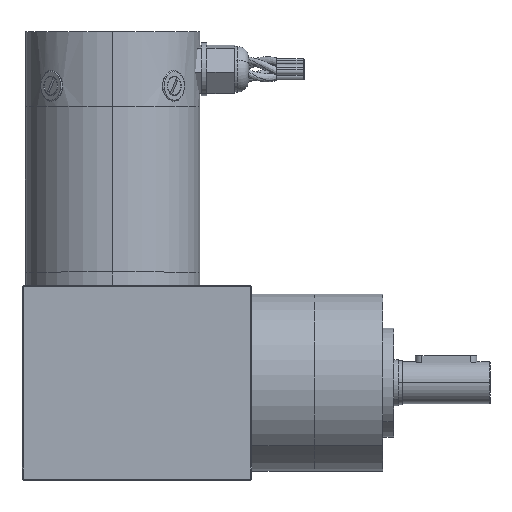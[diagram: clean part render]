
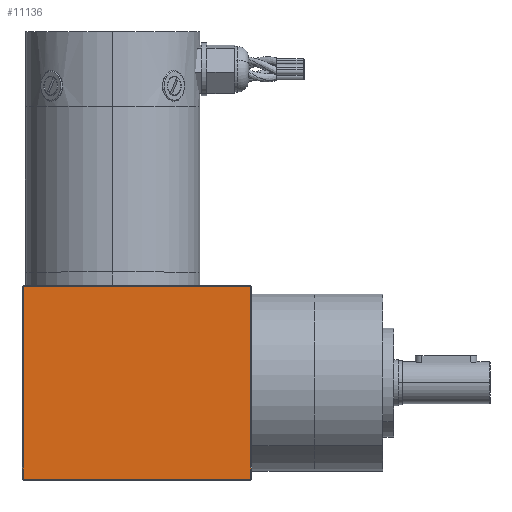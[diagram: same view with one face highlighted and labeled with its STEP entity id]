
A CAD part, top view. The second image highlights one B-rep face of the part: STEP entity #11136.
In plain terms, the highlighted planar face has unit normal (0, 0, 1).
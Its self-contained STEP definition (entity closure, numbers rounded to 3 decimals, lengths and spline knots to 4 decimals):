
#2235 = EDGE_CURVE ( 'NONE', #18609, #55988, #40923, .T. ) ;
#2431 = CARTESIAN_POINT ( 'NONE',  ( 11.7485, 0.02, 3.25 ) ) ;
#2864 = CARTESIAN_POINT ( 'NONE',  ( 7.6435, 3.48, 3.25 ) ) ;
#2869 = EDGE_LOOP ( 'NONE', ( #12144, #32206, #13494, #52690 ) ) ;
#6719 = LINE ( 'NONE', #13808, #28303 ) ;
#11136 = ADVANCED_FACE ( 'NONE', ( #20152 ), #26043, .T. ) ;
#12144 = ORIENTED_EDGE ( 'NONE', *, *, #13963, .T. ) ;
#13494 = ORIENTED_EDGE ( 'NONE', *, *, #16272, .T. ) ;
#13808 = CARTESIAN_POINT ( 'NONE',  ( 11.7685, 0.02, 3.25 ) ) ;
#13963 = EDGE_CURVE ( 'NONE', #54757, #18609, #6719, .T. ) ;
#16272 = EDGE_CURVE ( 'NONE', #55988, #22005, #53086, .T. ) ;
#17308 = VECTOR ( 'NONE', #50873, 39.3701 ) ;
#18609 = VERTEX_POINT ( 'NONE', #2431 ) ;
#19361 = CARTESIAN_POINT ( 'NONE',  ( 7.6635, 0., 3.25 ) ) ;
#19856 = CARTESIAN_POINT ( 'NONE',  ( 7.6635, 3.48, 3.25 ) ) ;
#20152 = FACE_OUTER_BOUND ( 'NONE', #2869, .T. ) ;
#21204 = CARTESIAN_POINT ( 'NONE',  ( 9.706, 1.75, 3.25 ) ) ;
#22005 = VERTEX_POINT ( 'NONE', #19856 ) ;
#23149 = DIRECTION ( 'NONE',  ( 1., 0., 0. ) ) ;
#26043 = PLANE ( 'NONE',  #56400 ) ;
#28303 = VECTOR ( 'NONE', #23149, 39.3701 ) ;
#30214 = CARTESIAN_POINT ( 'NONE',  ( 7.6635, 0.02, 3.25 ) ) ;
#32206 = ORIENTED_EDGE ( 'NONE', *, *, #2235, .T. ) ;
#36428 = CARTESIAN_POINT ( 'NONE',  ( 11.7485, 3.48, 3.25 ) ) ;
#36824 = DIRECTION ( 'NONE',  ( 0., -1., 0. ) ) ;
#37143 = VECTOR ( 'NONE', #55570, 39.3701 ) ;
#39040 = DIRECTION ( 'NONE',  ( 0., 0., 1. ) ) ;
#40923 = LINE ( 'NONE', #55921, #17308 ) ;
#42075 = EDGE_CURVE ( 'NONE', #22005, #54757, #55464, .T. ) ;
#43861 = DIRECTION ( 'NONE',  ( 1., 0., 0. ) ) ;
#45696 = VECTOR ( 'NONE', #36824, 39.3701 ) ;
#50873 = DIRECTION ( 'NONE',  ( 0., 1., 0. ) ) ;
#52690 = ORIENTED_EDGE ( 'NONE', *, *, #42075, .T. ) ;
#53086 = LINE ( 'NONE', #2864, #37143 ) ;
#54757 = VERTEX_POINT ( 'NONE', #30214 ) ;
#55464 = LINE ( 'NONE', #19361, #45696 ) ;
#55570 = DIRECTION ( 'NONE',  ( -1., 0., 0. ) ) ;
#55921 = CARTESIAN_POINT ( 'NONE',  ( 11.7485, 3.5, 3.25 ) ) ;
#55988 = VERTEX_POINT ( 'NONE', #36428 ) ;
#56400 = AXIS2_PLACEMENT_3D ( 'NONE', #21204, #39040, #43861 ) ;
